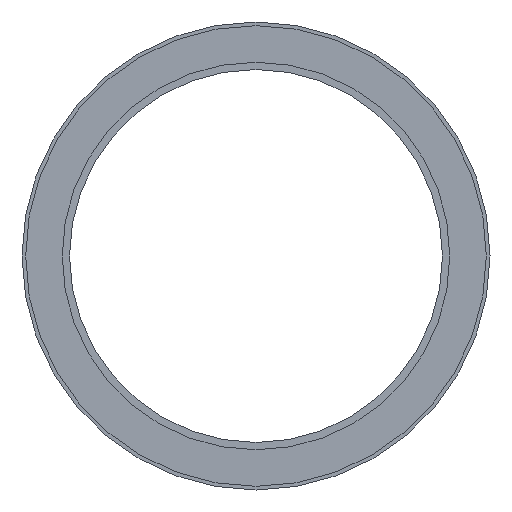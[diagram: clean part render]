
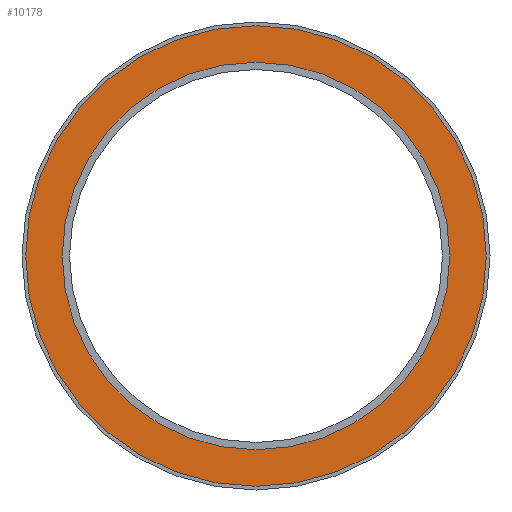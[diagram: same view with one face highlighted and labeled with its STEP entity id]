
A CAD part, front view. The second image highlights one B-rep face of the part: STEP entity #10178.
In plain terms, the highlighted planar face has unit normal (0, -1, 0).
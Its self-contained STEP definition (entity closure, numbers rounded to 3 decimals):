
#1547 = CIRCLE ( 'NONE', #17474, 31.5 ) ;
#1930 = ORIENTED_EDGE ( 'NONE', *, *, #25052, .F. ) ;
#2485 = CIRCLE ( 'NONE', #22378, 26.5 ) ;
#2639 = DIRECTION ( 'NONE',  ( 0., -1., 0. ) ) ;
#2786 = ORIENTED_EDGE ( 'NONE', *, *, #15577, .F. ) ;
#3084 = VERTEX_POINT ( 'NONE', #10264 ) ;
#3351 = CIRCLE ( 'NONE', #9290, 31.5 ) ;
#3513 = VERTEX_POINT ( 'NONE', #15627 ) ;
#4167 = VERTEX_POINT ( 'NONE', #15883 ) ;
#4395 = DIRECTION ( 'NONE',  ( 0., -1., 0. ) ) ;
#4508 = FACE_BOUND ( 'NONE', #7565, .T. ) ;
#4556 = CARTESIAN_POINT ( 'NONE',  ( 0., -0.8, 0. ) ) ;
#5030 = ORIENTED_EDGE ( 'NONE', *, *, #27453, .T. ) ;
#5715 = DIRECTION ( 'NONE',  ( 0., 0., -1. ) ) ;
#6166 = DIRECTION ( 'NONE',  ( 0., -1., 0. ) ) ;
#6681 = DIRECTION ( 'NONE',  ( 0., -1., 0. ) ) ;
#7565 = EDGE_LOOP ( 'NONE', ( #2786, #1930 ) ) ;
#7863 = CIRCLE ( 'NONE', #25248, 26.5 ) ;
#9212 = EDGE_CURVE ( 'NONE', #3513, #4167, #3351, .T. ) ;
#9290 = AXIS2_PLACEMENT_3D ( 'NONE', #11373, #6681, #23341 ) ;
#9326 = CARTESIAN_POINT ( 'NONE',  ( 0., -0.8, 0. ) ) ;
#10178 = ADVANCED_FACE ( 'NONE', ( #11826, #4508 ), #16651, .T. ) ;
#10264 = CARTESIAN_POINT ( 'NONE',  ( 0., -0.8, -26.5 ) ) ;
#10513 = EDGE_LOOP ( 'NONE', ( #15535, #5030 ) ) ;
#11373 = CARTESIAN_POINT ( 'NONE',  ( 0., -0.8, 0. ) ) ;
#11826 = FACE_OUTER_BOUND ( 'NONE', #10513, .T. ) ;
#15535 = ORIENTED_EDGE ( 'NONE', *, *, #9212, .T. ) ;
#15577 = EDGE_CURVE ( 'NONE', #23539, #3084, #7863, .T. ) ;
#15627 = CARTESIAN_POINT ( 'NONE',  ( 0., -0.8, 31.5 ) ) ;
#15883 = CARTESIAN_POINT ( 'NONE',  ( 0., -0.8, -31.5 ) ) ;
#16651 = PLANE ( 'NONE',  #17880 ) ;
#16807 = CARTESIAN_POINT ( 'NONE',  ( 0., -0.8, 0. ) ) ;
#17474 = AXIS2_PLACEMENT_3D ( 'NONE', #9326, #18830, #28287 ) ;
#17861 = CARTESIAN_POINT ( 'NONE',  ( 0., -0.8, 0. ) ) ;
#17880 = AXIS2_PLACEMENT_3D ( 'NONE', #16807, #2639, #28442 ) ;
#18830 = DIRECTION ( 'NONE',  ( 0., -1., 0. ) ) ;
#19642 = CARTESIAN_POINT ( 'NONE',  ( 0., -0.8, 26.5 ) ) ;
#22378 = AXIS2_PLACEMENT_3D ( 'NONE', #4556, #4395, #28329 ) ;
#23341 = DIRECTION ( 'NONE',  ( 0., 0., -1. ) ) ;
#23539 = VERTEX_POINT ( 'NONE', #19642 ) ;
#25052 = EDGE_CURVE ( 'NONE', #3084, #23539, #2485, .T. ) ;
#25248 = AXIS2_PLACEMENT_3D ( 'NONE', #17861, #6166, #5715 ) ;
#27453 = EDGE_CURVE ( 'NONE', #4167, #3513, #1547, .T. ) ;
#28287 = DIRECTION ( 'NONE',  ( 0., 0., -1. ) ) ;
#28329 = DIRECTION ( 'NONE',  ( 0., 0., -1. ) ) ;
#28442 = DIRECTION ( 'NONE',  ( 0., 0., -1. ) ) ;
